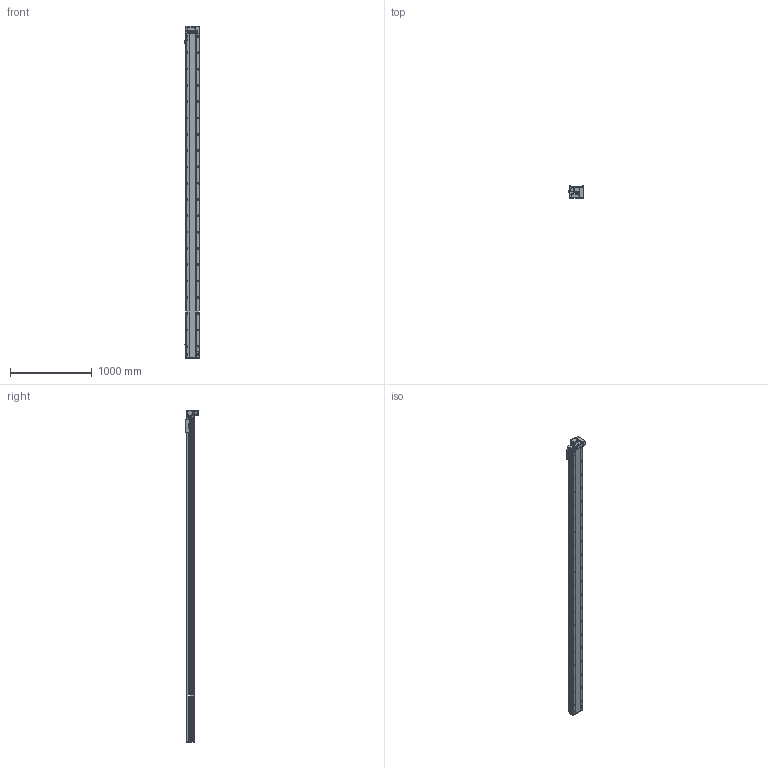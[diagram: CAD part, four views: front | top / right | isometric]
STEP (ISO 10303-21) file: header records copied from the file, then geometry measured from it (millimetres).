
FILE_DESCRIPTION (( 'STEP AP214' ), '1' );
FILE_NAME ('RTB17S-XX-3700-RM-M40-C4.STEP', '2025-12-11T08:40:45', ( '' ), ( '' ), 'SwSTEP 2.0', 'SolidWorks 2018', '' );
FILE_SCHEMA (( 'AUTOMOTIVE_DESIGN' ));
Length unit declared in the file: millimetre
Products named in the file (14): RTH13-BL-012覜茼え俋离^RTB17S-XX-XX-RM-M40-C4; RTB17S-L-007奻裔^RTB17S-XX-XX-RM-M40-C4; RTB14-L-017P^RTB17S-RM-々湍釱蚾饜-400W_RTB17S-XX-XX-RM-M40-C4; RTB17S-L-014-T20--々湍釱^RTB17S-RM-々湍釱蚾饜-400W_RTB17S-XX-XX-RM-M40-C4; RTB17S-RM-々湍釱蚾饜-400W^RTB17S-XX-XX-RM-M40-C4; OMRON EE-SX672 传感器^RTB17S-XX-XX-RM-M40-C4; RTB14-L-008-M20--萇儂啣^RTB17S-RM-々湍釱蚾饜-400W_RTB17S-XX-XX-RM-M40-C4; RTB14-L-005P--轴承塑胶压盖^RTB17S-RM-皮带座装配-400W_RTB17S-XX-XX-RM-M40-C4; RTB17S-XX-3700-RM-M40-C4; RTB17-R-011菁釱^RTB17S-XX-XX-RM-M40-C4; RTB17S-L-004佪裝蹟譫蟀諉釱^RTB17S-XX-XX-RM-M40-C4; RTB17S-L-001耜醱啣^RTB17S-XX-XX-RM-M40-C4; RTB14-L-018P^RTB17S-RM-々湍釱蚾饜-400W_RTB17S-XX-XX-RM-M40-C4; 400W侜督萇儂^RTB17S-XX-XX-RM-M40-C4
Assembly tree (16 placements, depth 3):
  RTB17S-XX-3700-RM-M40-C4
    RTB17-R-011菁釱^RTB17S-XX-XX-RM-M40-C4
    RTB17S-L-007奻裔^RTB17S-XX-XX-RM-M40-C4
    OMRON EE-SX672 传感器^RTB17S-XX-XX-RM-M40-C4  x3
    RTB17S-L-001耜醱啣^RTB17S-XX-XX-RM-M40-C4
    400W侜督萇儂^RTB17S-XX-XX-RM-M40-C4
    RTB17S-L-004佪裝蹟譫蟀諉釱^RTB17S-XX-XX-RM-M40-C4
    RTH13-BL-012覜茼え俋离^RTB17S-XX-XX-RM-M40-C4
    RTB17S-RM-々湍釱蚾饜-400W^RTB17S-XX-XX-RM-M40-C4
      RTB17S-L-014-T20--々湍釱^RTB17S-RM-々湍釱蚾饜-400W_RTB17S-XX-XX-RM-M40-C4
      RTB14-L-005P--轴承塑胶压盖^RTB17S-RM-皮带座装配-400W_RTB17S-XX-XX-RM-M40-C4
      RTB14-L-008-M20--萇儂啣^RTB17S-RM-々湍釱蚾饜-400W_RTB17S-XX-XX-RM-M40-C4
      RTB14-L-017P^RTB17S-RM-々湍釱蚾饜-400W_RTB17S-XX-XX-RM-M40-C4  x2
      RTB14-L-018P^RTB17S-RM-々湍釱蚾饜-400W_RTB17S-XX-XX-RM-M40-C4
Bounding box: 183.5 x 156.5 x 4072.5 mm (x, y, z)
Volume: 34389986.7 mm3; surface area: 3900050.9 mm2
Topology: 15 solids, 15 shells, 2429 faces, 6843 edges, 4473 vertices
Faces by surface type: plane 1096, cylinder 885, bspline 301, cone 139, torus 8
Entity records: 73385 total; most frequent: CARTESIAN_POINT 21048, ORIENTED_EDGE 10530, DIRECTION 9656, EDGE_CURVE 5265, VERTEX_POINT 3461, AXIS2_PLACEMENT_3D 3391, VECTOR 2874, LINE 2874
